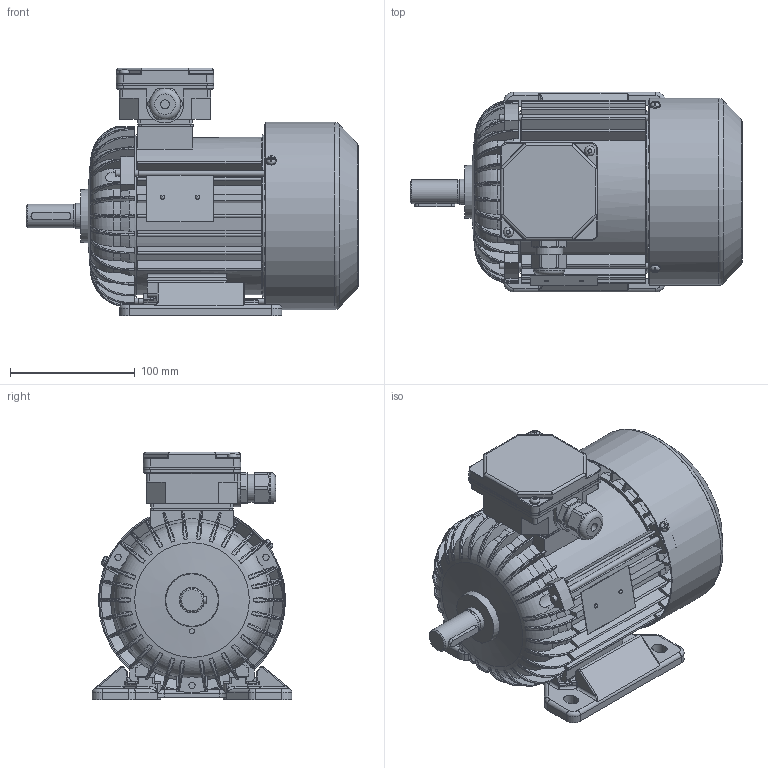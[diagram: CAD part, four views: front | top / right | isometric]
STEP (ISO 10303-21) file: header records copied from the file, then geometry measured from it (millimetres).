
FILE_DESCRIPTION(/* description */ ('Unknown'),/* implementation_level */ '2;1');
FILE_NAME(/* name */ '2SIE80-4A',/* time_stamp */ '2021-04-12T14:54:05+02:00',/* author */ ('Unknown'),/* organization */ ('Unknown'),/* preprocessor_version */ 'ST-DEVELOPER v16.7',/* originating_system */ 'Solid Edge',/* authorisation */ 'Unknown');
FILE_SCHEMA (('TECHNICAL_DATA_PACKAGING','AUTOMOTIVE_DESIGN {1 0 10303 214 3 1 1}'));
Length unit declared in the file: millimetre
Products named in the file (1): 2SIE80-4A
Bounding box: 265.79 x 160 x 198.5 mm (x, y, z)
Volume: 898789.4 mm3; surface area: 498319 mm2
Topology: 3 solids, 3 shells, 2924 faces, 8251 edges, 5311 vertices
Faces by surface type: plane 1402, cylinder 933, torus 220, bspline 204, cone 145, sphere 20
Full cylindrical faces by diameter (mm): 2 x2, 2.4 x2, 3 x1, 3.7 x8, 4 x4, 4.5 x1, 4.6 x3, 4.8 x2, 5 x8, 5.5 x3, 6.5 x4, 7 x1, 8 x9, 18.598 x1, 18.998 x1, 19.298 x1, 19.498 x1, 20.298 x2, 20.398 x2, 20.4 x2, 22.3 x1, 25 x1, 25.497 x1, 25.647 x1, 25.997 x3, 26.047 x1, 28.799 x4, 34 x2, 38.198 x4, 42 x3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
Entity records: 119985 total; most frequent: CARTESIAN_POINT 28064, ORIENTED_EDGE 15778, DIRECTION 14404, EDGE_CURVE 7889, AXIS2_PLACEMENT_3D 5228, VERTEX_POINT 5201, LINE 3948, VECTOR 3948
